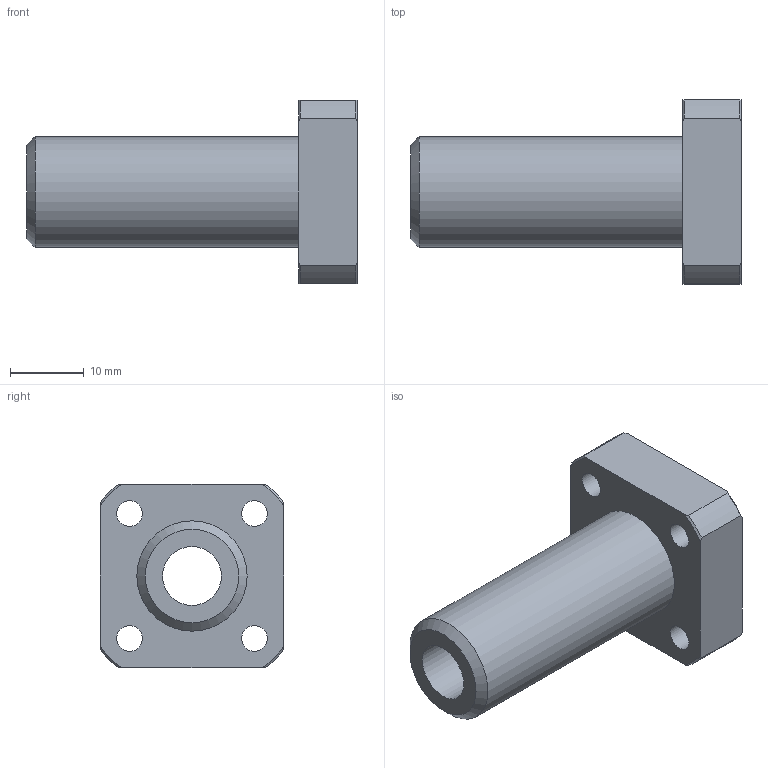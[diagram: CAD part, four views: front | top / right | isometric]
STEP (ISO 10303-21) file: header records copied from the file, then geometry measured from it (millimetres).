
FILE_DESCRIPTION(('STEP AP203'),'1');
FILE_NAME('//192.168.1.1/share/s-4 技術開発/s-4-4_CAD/s-4-4-3_見直し済み/PBC LINEAR修正済み/DFPJ/DFPJ_TOP/DFPJ/DFPJ08.step','2022-03-24T05:06:28',(' '),(' '),'Spatial InterOp 3D',' ',' ');
FILE_SCHEMA(('CONFIG_CONTROL_DESIGN'));
Length unit declared in the file: millimetre
Products named in the file (1): 1
Bounding box: 45 x 25 x 25 mm (x, y, z)
Volume: 8613.3 mm3; surface area: 5087.8 mm2
Topology: 1 solids, 1 shells, 34 faces, 85 edges, 58 vertices
Faces by surface type: cylinder 14, plane 11, cone 9
Full cylindrical faces by diameter (mm): 3.5 x4, 6 x4, 8 x1, 15 x1
Entity records: 1018 total; most frequent: CARTESIAN_POINT 205, DIRECTION 160, ORIENTED_EDGE 138, AXIS2_PLACEMENT_3D 72, EDGE_CURVE 69, EDGE_LOOP 60, VERTEX_POINT 53, FACE_OUTER_BOUND 44
